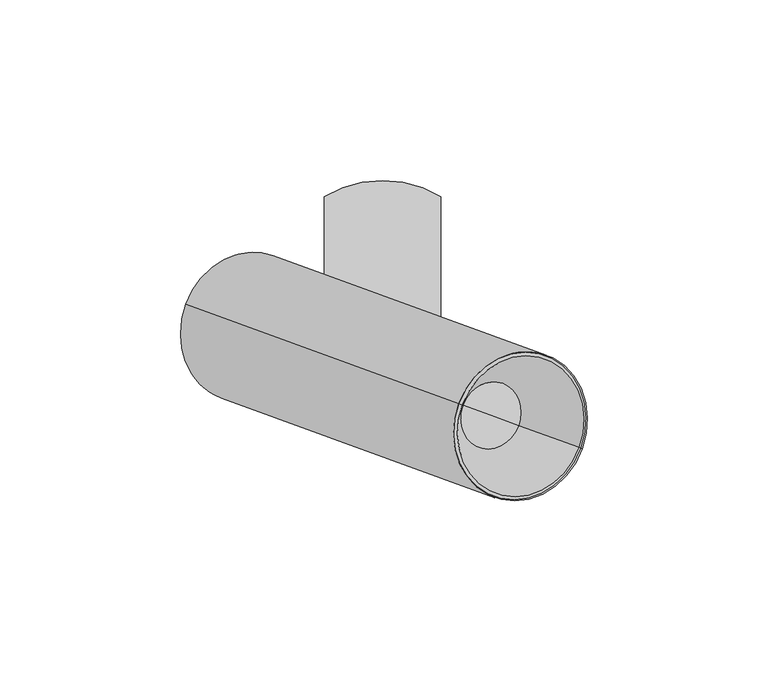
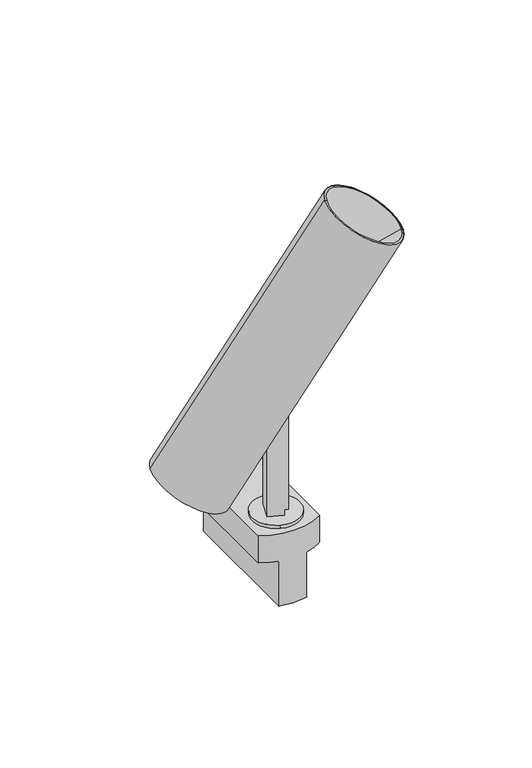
"""IFC4 building model written with IfcOpenShell, lengths in millimetres: light fixture geometry, PIPES T XS : 490lm 7,8W 930 38°."""

from ifc_helpers import new_model, si_unit, point, frame, frame_2d, origin, origin_2d, place, context, project, spatial, polyline, circle_curve, trimmed, segment, composite_curve, outline, extrude, source, transform, mapped, element, save
from ifc_brep_helpers import plane_surface, cylinder_surface, revolved_surface, advanced_brep


def light_fixture_ddc943ea(model_context):
    return source(origin(), model_context, "Body", "SolidModel", [
        extrude(outline(composite_curve([segment(polyline([(39.7303383, 0.0), (39.7303383, -7.9999999), (36.7303383, -7.9999999), (36.7303383, -10.0), (-21.31827, -10.0), (-21.31827, -2.0)]), True, "CONTINUOUS"), segment(trimmed(circle_curve(frame_2d((-15.691322, -2.0)), 5.626948), [point((-21.31827, -2.0))], [point((-15.691322, 3.626948))], False, "CARTESIAN"), True, "CONTINUOUS"), segment(polyline([(-15.691322, 3.626948), (-9.8735653, 3.626948)]), True, "CONTINUOUS"), segment(trimmed(circle_curve(frame_2d((-17.7182036, -2.2388679)), 9.7952104), [point((-9.8735653, 3.626948))], [point((-8.1822916, 0.0))], False, "CARTESIAN"), True, "CONTINUOUS"), segment(polyline([(-8.1822916, 0.0), (39.7303383, 0.0)]), True, "CONTINUOUS")], self_intersect=False)), frame((-6.4085638, -2.9883624, 56.5303383), z_axis=(0.3420201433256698, 0.939692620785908, 0.0), x_axis=(0.0, 0.0, -1.0)), (0.0, 0.0, 1.0), 10.0),
        extrude(outline(composite_curve([segment(trimmed(circle_curve(origin_2d(), 12.5), [point((4.2752518, 11.7461578))], [point((-4.2752518, -11.7461578))], False, "CARTESIAN"), True, "CONTINUOUS"), segment(trimmed(circle_curve(origin_2d(), 12.5), [point((-4.2752518, -11.7461578))], [point((4.2752518, 11.7461578))], False, "CARTESIAN"), True, "CONTINUOUS")], self_intersect=False)), frame((0.0, 0.0, 15.0), z_axis=(0.0, 0.0, 1.0), x_axis=(1.0, 0.0, 0.0)), (0.0, 0.0, 1.0), 1.8),
        advanced_brep(
        [(-7.1153658, -15.2862846, -25.0), (-7.1153658, 53.3498174, -25.0), (7.1153658, 53.3498174, -25.0), (7.1153658, -15.2862846, -25.0), (-16.1153658, 49.7317664, 15.0), (-16.1153658, -11.6682336, 15.0), (16.1153658, -11.6682336, 15.0), (16.1153658, 49.7317664, 15.0), (-16.1153658, 49.7317664, 0.0), (-16.1153658, -11.6682336, 0.0), (-7.1153658, -15.2862846, 0.0), (7.1153658, -15.2862846, 0.0), (16.1153658, -11.6682336, 0.0), (16.1153658, 49.7317664, 0.0), (7.1153658, 53.3498174, 0.0), (-7.1153658, 53.3498174, 0.0)],
        [
            (0, 1),
            (1, 2, circle_curve(frame((0.0, 22.6472542, -25.0), z_axis=(0.0, 0.0, -1.0), x_axis=(1.0, 0.0, 0.0)), 31.5162786)),
            (2, 3),
            (3, 0, circle_curve(frame((0.0, 15.4162786, -25.0), z_axis=(0.0, 0.0, -1.0), x_axis=(1.0, 0.0, 0.0)), 31.5162786)),
            (4, 5),
            (5, 6, circle_curve(frame((0.0, 15.4162786, 15.0), z_axis=(0.0, 0.0, 1.0), x_axis=(1.0, 0.0, 0.0)), 31.5162786)),
            (6, 7),
            (7, 4, circle_curve(frame((0.0, 22.6472542, 15.0), z_axis=(0.0, 0.0, 1.0), x_axis=(1.0, 0.0, 0.0)), 31.5162786)),
            (4, 8),
            (8, 9),
            (9, 5),
            (9, 10, circle_curve(frame((0.0, 15.4162786, 0.0), z_axis=(0.0, 0.0, 1.0), x_axis=(1.0, 0.0, 0.0)), 31.5162786)),
            (10, 0),
            (3, 11),
            (11, 12, circle_curve(frame((0.0, 15.4162786, 0.0), z_axis=(0.0, 0.0, 1.0), x_axis=(1.0, 0.0, 0.0)), 31.5162786)),
            (12, 6),
            (12, 13),
            (13, 7),
            (13, 14, circle_curve(frame((0.0, 22.6472542, 0.0), z_axis=(0.0, 0.0, 1.0), x_axis=(1.0, 0.0, 0.0)), 31.5162786)),
            (14, 2),
            (1, 15),
            (15, 8, circle_curve(frame((0.0, 22.6472542, 0.0), z_axis=(0.0, 0.0, 1.0), x_axis=(1.0, 0.0, 0.0)), 31.5162786)),
            (15, 10),
            (11, 14),
        ],
        [
            plane_surface(frame((-16.1153658, -11.6883244, -25.0), z_axis=(0.0, 0.0, -1.0), x_axis=(0.0, 1.0, 0.0))),
            plane_surface(frame((-16.1153658, -11.6883244, 15.0), z_axis=(0.0, 0.0, 1.0), x_axis=(0.0, -1.0, 0.0))),
            plane_surface(frame((-16.1153658, 49.7317664, 15.0), z_axis=(-1.0, 0.0, 0.0), x_axis=(0.0, 0.0, -1.0))),
            cylinder_surface(frame((0.0, 15.4162786, -25.0), z_axis=(0.0, 0.0, 1.0), x_axis=(1.0, 0.0, 0.0)), 31.5162786),
            plane_surface(frame((16.1153658, -11.6682336, 15.0), z_axis=(1.0, 0.0, 0.0), x_axis=(0.0, 0.0, -1.0))),
            cylinder_surface(frame((0.0, 22.6472542, -25.0), z_axis=(0.0, 0.0, 1.0), x_axis=(1.0, 0.0, 0.0)), 31.5162786),
            plane_surface(frame((-7.1153658, 58.6979838, 0.0), z_axis=(0.0, 0.0, -1.0), x_axis=(-1.0, 0.0, 0.0))),
            plane_surface(frame((-7.1153658, -21.3020162, 0.0), z_axis=(-1.0, 0.0, 0.0), x_axis=(0.0, 0.0, -1.0))),
            plane_surface(frame((7.1153658, -11.6883244, 0.0), z_axis=(0.0, 0.0, -1.0), x_axis=(0.0, -1.0, 0.0))),
            plane_surface(frame((7.1153658, 58.6979838, 0.0), z_axis=(1.0, 0.0, 0.0), x_axis=(0.0, 0.0, -1.0))),
        ],
        [
            (0, [[1, 2, 3, 4]]),
            (1, [[5, 6, 7, 8]]),
            (2, [[-5, 9, 10, 11]]),
            (3, [[-6, -11, 12, 13, -4, 14, 15, 16]]),
            (4, [[-7, -16, 17, 18]]),
            (5, [[-8, -18, 19, 20, -2, 21, 22, -9]]),
            (6, [[23, -12, -10, -22]]),
            (7, [[-23, -21, -1, -13]]),
            (8, [[24, -19, -17, -15]]),
            (9, [[-24, -14, -3, -20]]),
        ],
    ),
        advanced_brep(
        [(-0.0096561, 5.3244034, 79.830127), (-23.971818, 14.0459171, 35.6628314), (-18.0064346, 11.8746951, 31.99768), (-20.8255124, 12.9007555, 26.8015276), (-19.1443893, 12.2888767, 25.76864), (7.6368504, 2.5413026, 75.132088), (-3.4298576, -4.0725228, 79.830127), (4.216649, -6.8556236, 75.132088), (-22.5645907, 2.8919505, 25.76864), (-24.2457139, 3.5038293, 26.8015276), (-21.426636, 2.4777689, 31.99768), (-27.3920194, 4.6489909, 35.6628314), (-25.6819187, 9.347454, 35.6628314), (6.41822, -2.336041, 74.830127), (55.2822362, -20.1210885, 164.896769), (21.1027336, -7.6807669, 185.896769), (-54.5425224, 19.8518546, 46.466679), (-52.914927, 19.2594584, 45.466679), (-50.0958491, 18.2333979, 50.6628314), (-34.6336932, 12.6056334, 41.1628314), (21.3623514, -7.77526, 164.375299), (37.638305, -13.6992227, 154.375299), (29.5003282, -10.7372414, 159.375299)],
        [
            (0, 1),
            (1, 2),
            (2, 3),
            (3, 4),
            (4, 5),
            (5, 0),
            (6, 7),
            (7, 8),
            (8, 9),
            (9, 10),
            (10, 11),
            (11, 6),
            (0, 6),
            (11, 12),
            (12, 1),
            (5, 13, circle_curve(frame((-10.6715313, 3.8841198, 85.330127), z_axis=(-0.46984631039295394, 0.17101007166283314, -0.8660254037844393), x_axis=(0.8137976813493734, -0.29619813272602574, -0.4999999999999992)), 21.0)),
            (13, 7, circle_curve(frame((-10.6715313, 3.8841198, 85.330127), z_axis=(-0.46984631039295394, 0.17101007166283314, -0.8660254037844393), x_axis=(0.8137976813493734, -0.29619813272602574, -0.4999999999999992)), 21.0)),
            (14, 15, circle_curve(frame((38.1924849, -13.9009277, 175.396769), z_axis=(-0.46984631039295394, 0.17101007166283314, -0.8660254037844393), x_axis=(0.8137976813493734, -0.29619813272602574, -0.4999999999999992)), 21.0)),
            (15, 16),
            (16, 8, circle_curve(frame((-37.452771, 13.6316939, 35.966679), z_axis=(0.46984631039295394, -0.17101007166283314, 0.8660254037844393), x_axis=(0.8137976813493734, -0.29619813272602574, -0.4999999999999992)), 21.0)),
            (13, 14),
            (15, 14, circle_curve(frame((38.1924849, -13.9009277, 175.396769), z_axis=(-0.46984631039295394, 0.17101007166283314, -0.8660254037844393), x_axis=(0.8137976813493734, -0.29619813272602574, -0.4999999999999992)), 21.0)),
            (4, 16, circle_curve(frame((-37.452771, 13.6316939, 35.966679), z_axis=(0.46984631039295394, -0.17101007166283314, 0.8660254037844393), x_axis=(0.8137976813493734, -0.29619813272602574, -0.4999999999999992)), 21.0)),
            (16, 17),
            (17, 9, circle_curve(frame((-37.452771, 13.6316939, 35.966679), z_axis=(0.46984631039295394, -0.17101007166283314, 0.8660254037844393), x_axis=(0.8137976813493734, -0.29619813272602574, -0.4999999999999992)), 19.0)),
            (3, 17, circle_curve(frame((-37.452771, 13.6316939, 35.966679), z_axis=(0.46984631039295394, -0.17101007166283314, 0.8660254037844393), x_axis=(0.8137976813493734, -0.29619813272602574, -0.4999999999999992)), 19.0)),
            (17, 18),
            (18, 10, circle_curve(frame((-34.6336932, 12.6056334, 41.1628314), z_axis=(0.46984631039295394, -0.17101007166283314, 0.8660254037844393), x_axis=(0.8137976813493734, -0.29619813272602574, -0.4999999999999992)), 19.0)),
            (2, 18, circle_curve(frame((-34.6336932, 12.6056334, 41.1628314), z_axis=(0.46984631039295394, -0.17101007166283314, 0.8660254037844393), x_axis=(0.8137976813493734, -0.29619813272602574, -0.4999999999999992)), 19.0)),
            (18, 19),
            (19, 12),
            (20, 21, circle_curve(frame((29.5003282, -10.7372414, 159.375299), z_axis=(0.46984631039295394, -0.17101007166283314, 0.8660254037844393), x_axis=(0.8137976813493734, -0.29619813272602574, -0.4999999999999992)), 10.0)),
            (21, 22),
            (22, 20),
            (21, 20, circle_curve(frame((29.5003282, -10.7372414, 159.375299), z_axis=(0.46984631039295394, -0.17101007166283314, 0.8660254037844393), x_axis=(0.8137976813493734, -0.29619813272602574, -0.4999999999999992)), 10.0)),
            (14, 21),
            (20, 15),
        ],
        [
            plane_surface(frame((-0.0096561, 5.3244034, 79.830127), z_axis=(-0.34202014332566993, -0.939692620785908, 0.0), x_axis=(0.46984631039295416, -0.1710100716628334, 0.8660254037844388))),
            plane_surface(frame((-3.4298576, -4.0725228, 79.830127), z_axis=(0.34202014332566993, 0.939692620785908, 0.0), x_axis=(-0.46984631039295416, 0.1710100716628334, -0.8660254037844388))),
            plane_surface(frame((-3.4298576, -4.0725228, 79.830127), z_axis=(0.8137976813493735, -0.2961981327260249, -0.49999999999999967), x_axis=(0.3420201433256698, 0.939692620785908, 0.0))),
            plane_surface(frame((12.8460961, -9.9964855, 69.830127), z_axis=(-0.4698463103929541, 0.17101007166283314, -0.866025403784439), x_axis=(0.3420201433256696, 0.9396926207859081, 0.0))),
            cylinder_surface(frame((-41.424091, 15.0771361, 28.6467024), z_axis=(-0.4698463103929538, 0.1710100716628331, -0.866025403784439), x_axis=(0.8137976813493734, -0.29619813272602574, -0.4999999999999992)), 21.0),
            plane_surface(frame((-37.452771, 13.6316939, 35.966679), z_axis=(-0.4698463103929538, 0.17101007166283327, -0.8660254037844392), x_axis=(0.8137976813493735, -0.2961981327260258, -0.4999999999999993))),
            revolved_surface(polyline([(-21.990615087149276, 8.003929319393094, 26.466678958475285), (-19.171537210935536, 6.977868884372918, 31.662831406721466)]), (-41.424091, 15.0771361, 28.6467024), (-0.4698463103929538, 0.1710100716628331, -0.866025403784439)),
            revolved_surface(polyline([(-21.990615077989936, 8.003929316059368, 26.46667897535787), (-19.171537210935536, 6.977868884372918, 31.662831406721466)]), (-41.424091, 15.0771361, 28.6467024), (-0.4698463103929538, 0.1710100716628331, -0.866025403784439)),
            plane_surface(frame((-34.6336932, 12.6056334, 41.1628314), z_axis=(-0.4698463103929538, 0.17101007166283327, -0.8660254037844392), x_axis=(0.8137976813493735, -0.2961981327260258, -0.4999999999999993))),
            plane_surface(frame((29.5003282, -10.7372414, 159.375299), z_axis=(0.4698463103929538, -0.17101007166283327, 0.8660254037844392), x_axis=(0.8137976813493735, -0.2961981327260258, -0.4999999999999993))),
            revolved_surface(polyline([(37.638305, -13.6992227, 154.375299), (55.2822362, -20.1210885, 164.896769)]), (-41.424091, 15.0771361, 28.6467024), (-0.4698463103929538, 0.1710100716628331, -0.866025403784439)),
        ],
        [
            (0, [[1, 2, 3, 4, 5, 6]]),
            (1, [[7, 8, 9, 10, 11, 12]]),
            (2, [[13, -12, 14, 15, -1]]),
            (3, [[-13, -6, 16, 17, -7]]),
            (4, [[18, 19, 20, -8, -17, 21]]),
            (4, [[-19, 22, -21, -16, -5, 23]]),
            (5, [[24, 25, -9, -20]]),
            (5, [[-24, -23, -4, 26]]),
            (6, [[27, 28, -10, -25]]),
            (7, [[-27, -26, -3, 29]]),
            (8, [[30, 31, -14, -11, -28]]),
            (8, [[-30, -29, -2, -15, -31]]),
            (9, [[32, 33, 34]]),
            (9, [[-33, 35, -34]]),
            (10, [[-18, 36, -32, 37]]),
            (10, [[-22, -37, -35, -36]]),
        ],
    ),
        advanced_brep(
        [(-25.8512032, 14.7299574, 32.1987298), (-26.7908958, 15.0719775, 30.466679), (-22.5254356, 13.5194769, 27.845966), (-21.585743, 13.1774568, 29.5780169), (-30.2110973, 5.6750513, 30.466679), (-29.2714046, 5.3330311, 32.1987298), (-25.0059444, 3.7805306, 29.5780169), (-25.945637, 4.1225507, 27.845966), (-27.5613039, 10.0314942, 32.1987298), (-28.5009965, 10.3735144, 30.466679), (-36.5130784, 13.2896737, 37.6987298), (-50.342466, 18.3231591, 46.1955515), (-51.2821586, 18.6651793, 44.4635007), (-37.452771, 13.6316939, 35.966679)],
        [
            (0, 1),
            (1, 2),
            (2, 3),
            (3, 0),
            (4, 5),
            (5, 6),
            (6, 7),
            (7, 4),
            (0, 8),
            (8, 5),
            (4, 9),
            (9, 1),
            (10, 11),
            (11, 6, circle_curve(frame((-36.5130784, 13.2896737, 37.6987298), z_axis=(0.469846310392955, -0.17101007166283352, 0.8660254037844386), x_axis=(0.8137976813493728, -0.2961981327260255, -0.5000000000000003)), 16.9936434)),
            (8, 10),
            (3, 11, circle_curve(frame((-36.5130784, 13.2896737, 37.6987298), z_axis=(0.469846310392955, -0.17101007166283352, 0.8660254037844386), x_axis=(0.8137976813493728, -0.2961981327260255, -0.5000000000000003)), 16.9936434)),
            (11, 12),
            (12, 7, circle_curve(frame((-37.452771, 13.6316939, 35.966679), z_axis=(0.469846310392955, -0.17101007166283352, 0.8660254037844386), x_axis=(0.8137976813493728, -0.2961981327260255, -0.5000000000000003)), 16.9936434)),
            (2, 12, circle_curve(frame((-37.452771, 13.6316939, 35.966679), z_axis=(0.469846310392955, -0.17101007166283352, 0.8660254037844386), x_axis=(0.8137976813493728, -0.2961981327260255, -0.5000000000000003)), 16.9936434)),
            (12, 13),
            (13, 9),
        ],
        [
            plane_surface(frame((-0.0096561, 5.3244034, 79.830127), z_axis=(-0.34202014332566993, -0.939692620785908, 0.0), x_axis=(0.46984631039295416, -0.1710100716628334, 0.8660254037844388))),
            plane_surface(frame((-3.4298576, -4.0725228, 79.830127), z_axis=(0.34202014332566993, 0.939692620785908, 0.0), x_axis=(-0.46984631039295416, 0.1710100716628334, -0.8660254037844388))),
            plane_surface(frame((-3.4298576, -4.0725228, 79.830127), z_axis=(0.8137976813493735, -0.2961981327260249, -0.49999999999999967), x_axis=(0.3420201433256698, 0.939692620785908, 0.0))),
            plane_surface(frame((-36.5130784, 13.2896737, 37.6987298), z_axis=(0.46984631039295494, -0.17101007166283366, 0.8660254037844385), x_axis=(0.8137976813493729, -0.2961981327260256, -0.5000000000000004))),
            cylinder_surface(frame((24.5893156, -8.9497789, 150.3232716), z_axis=(-0.4698463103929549, 0.1710100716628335, -0.8660254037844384), x_axis=(0.8137976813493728, -0.2961981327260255, -0.5000000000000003)), 16.9936434),
            plane_surface(frame((-37.452771, 13.6316939, 35.966679), z_axis=(-0.46984631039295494, 0.17101007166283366, -0.8660254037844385), x_axis=(0.8137976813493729, -0.2961981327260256, -0.5000000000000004))),
        ],
        [
            (0, [[1, 2, 3, 4]]),
            (1, [[5, 6, 7, 8]]),
            (2, [[-1, 9, 10, -5, 11, 12]]),
            (3, [[13, 14, -6, -10, 15]]),
            (3, [[-13, -15, -9, -4, 16]]),
            (4, [[17, 18, -7, -14]]),
            (4, [[-17, -16, -3, 19]]),
            (5, [[20, 21, -11, -8, -18]]),
            (5, [[-20, -19, -2, -12, -21]]),
        ],
    ),
        advanced_brep(
        [(22.2951053, -8.1147547, 164.9569125), (37.6452437, -13.7017482, 155.5257364), (29.9701745, -10.9082514, 160.2413244), (22.0495209, -8.0253693, 185.3150597), (54.3354489, -19.7764861, 165.4784783), (21.1027336, -7.6807669, 185.896769), (55.2822362, -20.1210885, 164.896769), (21.3623514, -7.77526, 164.375299), (37.638305, -13.6992227, 154.375299), (29.5003282, -10.7372414, 159.375299)],
        [
            (0, 1, circle_curve(frame((29.9701745, -10.9082514, 160.2413244), z_axis=(0.46984631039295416, -0.17101007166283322, 0.866025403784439), x_axis=(0.8137976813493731, -0.2961981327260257, -0.49999999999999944)), 9.431176)),
            (1, 2),
            (2, 0),
            (1, 0, circle_curve(frame((29.9701745, -10.9082514, 160.2413244), z_axis=(0.46984631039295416, -0.17101007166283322, 0.866025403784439), x_axis=(0.8137976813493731, -0.2961981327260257, -0.49999999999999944)), 9.431176)),
            (3, 4, circle_curve(frame((38.1924849, -13.9009277, 175.396769), z_axis=(0.46984631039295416, -0.17101007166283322, 0.866025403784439), x_axis=(0.8137976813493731, -0.2961981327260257, -0.49999999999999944)), 19.8365814)),
            (4, 1),
            (0, 3),
            (4, 3, circle_curve(frame((38.1924849, -13.9009277, 175.396769), z_axis=(0.46984631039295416, -0.17101007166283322, 0.866025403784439), x_axis=(0.8137976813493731, -0.2961981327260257, -0.49999999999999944)), 19.8365814)),
            (5, 6, circle_curve(frame((38.1924849, -13.9009277, 175.396769), z_axis=(0.46984631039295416, -0.17101007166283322, 0.866025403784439), x_axis=(0.8137976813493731, -0.2961981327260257, -0.49999999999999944)), 21.0)),
            (6, 4),
            (3, 5),
            (6, 5, circle_curve(frame((38.1924849, -13.9009277, 175.396769), z_axis=(0.46984631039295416, -0.17101007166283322, 0.866025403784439), x_axis=(0.8137976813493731, -0.2961981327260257, -0.49999999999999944)), 21.0)),
            (7, 8, circle_curve(frame((29.5003282, -10.7372414, 159.375299), z_axis=(0.46984631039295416, -0.17101007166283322, 0.866025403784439), x_axis=(0.8137976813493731, -0.2961981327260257, -0.49999999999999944)), 10.0)),
            (8, 6),
            (5, 7),
            (8, 7, circle_curve(frame((29.5003282, -10.7372414, 159.375299), z_axis=(0.46984631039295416, -0.17101007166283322, 0.866025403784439), x_axis=(0.8137976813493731, -0.2961981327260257, -0.49999999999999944)), 10.0)),
            (9, 8),
            (7, 9),
        ],
        [
            plane_surface(frame((29.9701745, -10.9082514, 160.2413244), z_axis=(0.46984631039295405, -0.17101007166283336, 0.8660254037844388), x_axis=(0.8137976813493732, -0.29619813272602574, -0.4999999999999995))),
            revolved_surface(polyline([(37.6452437, -13.7017482, 155.5257364), (54.3354489, -19.7764861, 165.4784783)]), (-50.8210173, 18.4973376, 11.3261943), (-0.46984631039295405, 0.1710100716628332, -0.8660254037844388)),
            plane_surface(frame((38.1924849, -13.9009277, 175.396769), z_axis=(0.46984631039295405, -0.17101007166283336, 0.8660254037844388), x_axis=(0.8137976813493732, -0.29619813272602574, -0.4999999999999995))),
            revolved_surface(polyline([(55.2822362, -20.1210885, 164.896769), (37.638305, -13.6992227, 154.375299)]), (-50.8210173, 18.4973376, 11.3261943), (-0.46984631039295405, 0.1710100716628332, -0.8660254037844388)),
            plane_surface(frame((29.5003282, -10.7372414, 159.375299), z_axis=(-0.46984631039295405, 0.17101007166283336, -0.8660254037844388), x_axis=(0.8137976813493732, -0.29619813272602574, -0.4999999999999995))),
        ],
        [
            (0, [[1, 2, 3]]),
            (0, [[4, -3, -2]]),
            (1, [[5, 6, -1, 7]]),
            (1, [[8, -7, -4, -6]]),
            (2, [[9, 10, -5, 11]]),
            (2, [[12, -11, -8, -10]]),
            (3, [[13, 14, -9, 15]]),
            (3, [[16, -15, -12, -14]]),
            (4, [[17, -13, 18]]),
            (4, [[-18, -16, -17]]),
        ],
    ),
    ])


if __name__ == "__main__":
    model = new_model("IFC4")
    model_context = context("Model", 3, world=origin())
    ifc_project = project(units=[si_unit("LENGTHUNIT", "METRE", prefix="MILLI")], contexts=[model_context])
    site = spatial("IfcSite", under=ifc_project)
    building = spatial("IfcBuilding", under=site)
    placement = place(None, origin())
    light_fixture_shape = light_fixture_ddc943ea(model_context)
    element("IfcLightFixture", 1, ObjectType="PIPES T XS : 490lm 7,8W 930 38°", at=placement, inside=building, context=model_context, shape_type="MappedRepresentation", body=[
        mapped(light_fixture_shape, transform((0.0, 0.0, 0.0), x_axis=(1.0, 0.0, 0.0), y_axis=(0.0, 1.0, 0.0), z_axis=(0.0, 0.0, 1.0))),
    ])
    save(model, "model.ifc")
